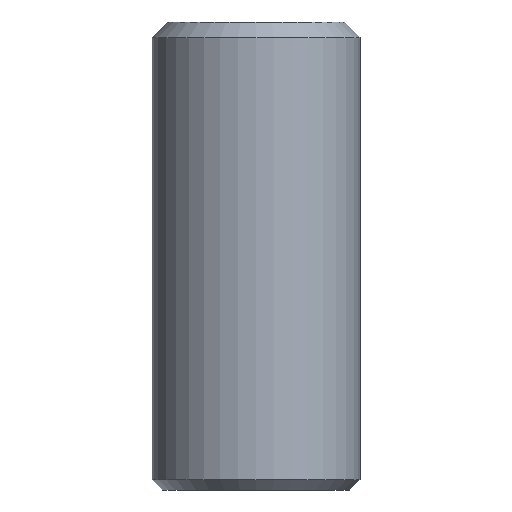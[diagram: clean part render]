
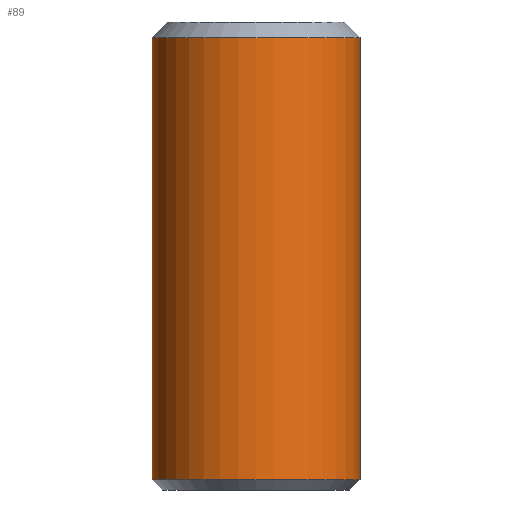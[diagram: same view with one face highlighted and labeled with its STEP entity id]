
A CAD part, front view. The second image highlights one B-rep face of the part: STEP entity #89.
In plain terms, the highlighted cylindrical face has radius 10 mm (diameter 20 mm), a full revolution.
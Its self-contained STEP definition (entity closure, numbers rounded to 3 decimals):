
#23=FACE_OUTER_BOUND('',#29,.T.);
#29=EDGE_LOOP('',(#73,#74,#75,#76));
#37=LINE('',#165,#41);
#41=VECTOR('',#139,10.);
#45=CIRCLE('',#111,10.);
#47=CIRCLE('',#114,10.);
#51=VERTEX_POINT('',#157);
#53=VERTEX_POINT('',#163);
#58=EDGE_CURVE('',#51,#51,#45,.T.);
#61=EDGE_CURVE('',#53,#53,#47,.T.);
#62=EDGE_CURVE('',#53,#51,#37,.T.);
#73=ORIENTED_EDGE('',*,*,#61,.F.);
#74=ORIENTED_EDGE('',*,*,#62,.T.);
#75=ORIENTED_EDGE('',*,*,#58,.F.);
#76=ORIENTED_EDGE('',*,*,#62,.F.);
#86=CYLINDRICAL_SURFACE('',#113,10.);
#89=ADVANCED_FACE('',(#23),#86,.T.);
#111=AXIS2_PLACEMENT_3D('',#158,#130,#131);
#113=AXIS2_PLACEMENT_3D('',#162,#135,#136);
#114=AXIS2_PLACEMENT_3D('',#164,#137,#138);
#130=DIRECTION('center_axis',(0.,0.,-1.));
#131=DIRECTION('ref_axis',(-1.,0.,0.));
#135=DIRECTION('center_axis',(0.,0.,1.));
#136=DIRECTION('ref_axis',(-1.,0.,0.));
#137=DIRECTION('center_axis',(0.,0.,1.));
#138=DIRECTION('ref_axis',(-1.,0.,0.));
#139=DIRECTION('',(0.,0.,-1.));
#157=CARTESIAN_POINT('',(-85.,95.,5.));
#158=CARTESIAN_POINT('Origin',(-95.,95.,5.));
#162=CARTESIAN_POINT('Origin',(-95.,95.,4.));
#163=CARTESIAN_POINT('',(-85.,95.,47.5));
#164=CARTESIAN_POINT('Origin',(-95.,95.,47.5));
#165=CARTESIAN_POINT('',(-85.,95.,4.));
